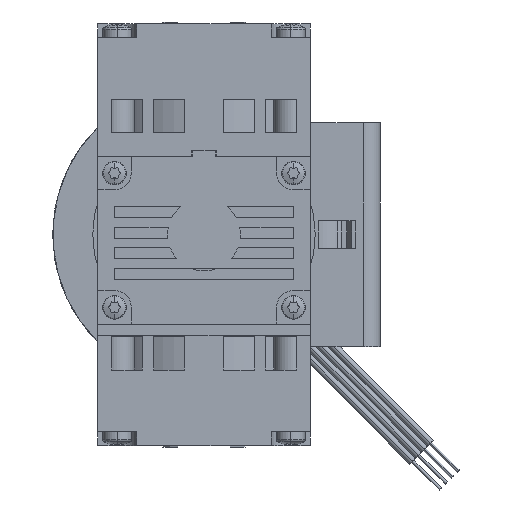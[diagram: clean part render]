
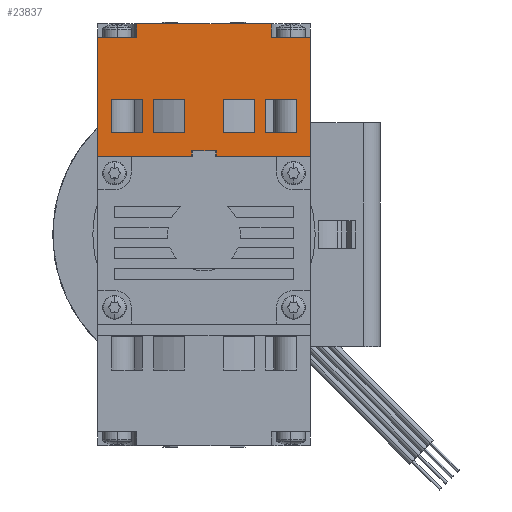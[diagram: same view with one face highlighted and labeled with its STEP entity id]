
A CAD part, left-side view. The second image highlights one B-rep face of the part: STEP entity #23837.
In plain terms, the highlighted planar face has unit normal (-1, 0, 0).
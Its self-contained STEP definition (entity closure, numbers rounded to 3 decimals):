
#1994=DIRECTION('',(0.,0.,1.));
#1995=VECTOR('',#1994,21.2);
#1996=CARTESIAN_POINT('',(-27.,-19.,14.));
#1997=LINE('',#1996,#1995);
#2264=DIRECTION('',(0.,-1.,0.));
#2265=VECTOR('',#2264,7.);
#2266=CARTESIAN_POINT('',(-27.,19.,35.2));
#2267=LINE('',#2266,#2265);
#2268=DIRECTION('',(0.,0.,-1.));
#2269=VECTOR('',#2268,2.5);
#2270=CARTESIAN_POINT('',(-27.,12.,37.7));
#2271=LINE('',#2270,#2269);
#2272=DIRECTION('',(0.,0.,-1.));
#2273=VECTOR('',#2272,2.5);
#2274=CARTESIAN_POINT('',(-27.,-12.,37.7));
#2275=LINE('',#2274,#2273);
#2276=DIRECTION('',(0.,-1.,0.));
#2277=VECTOR('',#2276,7.);
#2278=CARTESIAN_POINT('',(-27.,-12.,35.2));
#2279=LINE('',#2278,#2277);
#2280=DIRECTION('',(0.,1.,0.));
#2281=VECTOR('',#2280,16.8);
#2282=CARTESIAN_POINT('',(-27.,-19.,14.));
#2283=LINE('',#2282,#2281);
#2284=DIRECTION('',(0.,0.,1.));
#2285=VECTOR('',#2284,1.);
#2286=CARTESIAN_POINT('',(-27.,-2.2,14.));
#2287=LINE('',#2286,#2285);
#2288=DIRECTION('',(0.,1.,0.));
#2289=VECTOR('',#2288,4.4);
#2290=CARTESIAN_POINT('',(-27.,-2.2,15.));
#2291=LINE('',#2290,#2289);
#2292=DIRECTION('',(0.,0.,-1.));
#2293=VECTOR('',#2292,1.);
#2294=CARTESIAN_POINT('',(-27.,2.2,15.));
#2295=LINE('',#2294,#2293);
#2296=DIRECTION('',(0.,1.,0.));
#2297=VECTOR('',#2296,16.8);
#2298=CARTESIAN_POINT('',(-27.,2.2,14.));
#2299=LINE('',#2298,#2297);
#2300=DIRECTION('',(0.,1.,0.));
#2301=VECTOR('',#2300,5.5);
#2302=CARTESIAN_POINT('',(-27.,-16.5,24.2));
#2303=LINE('',#2302,#2301);
#2304=DIRECTION('',(0.,0.,1.));
#2305=VECTOR('',#2304,6.);
#2306=CARTESIAN_POINT('',(-27.,-11.,18.2));
#2307=LINE('',#2306,#2305);
#2308=DIRECTION('',(0.,1.,0.));
#2309=VECTOR('',#2308,5.5);
#2310=CARTESIAN_POINT('',(-27.,-16.5,18.2));
#2311=LINE('',#2310,#2309);
#2312=DIRECTION('',(0.,0.,1.));
#2313=VECTOR('',#2312,6.);
#2314=CARTESIAN_POINT('',(-27.,-16.5,18.2));
#2315=LINE('',#2314,#2313);
#2316=DIRECTION('',(0.,1.,0.));
#2317=VECTOR('',#2316,5.5);
#2318=CARTESIAN_POINT('',(-27.,-9.,24.2));
#2319=LINE('',#2318,#2317);
#2320=DIRECTION('',(0.,0.,1.));
#2321=VECTOR('',#2320,6.);
#2322=CARTESIAN_POINT('',(-27.,-3.5,18.2));
#2323=LINE('',#2322,#2321);
#2324=DIRECTION('',(0.,1.,0.));
#2325=VECTOR('',#2324,5.5);
#2326=CARTESIAN_POINT('',(-27.,-9.,18.2));
#2327=LINE('',#2326,#2325);
#2328=DIRECTION('',(0.,0.,1.));
#2329=VECTOR('',#2328,6.);
#2330=CARTESIAN_POINT('',(-27.,-9.,18.2));
#2331=LINE('',#2330,#2329);
#2332=DIRECTION('',(0.,1.,0.));
#2333=VECTOR('',#2332,5.5);
#2334=CARTESIAN_POINT('',(-27.,3.5,24.2));
#2335=LINE('',#2334,#2333);
#2336=DIRECTION('',(0.,0.,1.));
#2337=VECTOR('',#2336,6.);
#2338=CARTESIAN_POINT('',(-27.,9.,18.2));
#2339=LINE('',#2338,#2337);
#2340=DIRECTION('',(0.,1.,0.));
#2341=VECTOR('',#2340,5.5);
#2342=CARTESIAN_POINT('',(-27.,3.5,18.2));
#2343=LINE('',#2342,#2341);
#2344=DIRECTION('',(0.,0.,1.));
#2345=VECTOR('',#2344,6.);
#2346=CARTESIAN_POINT('',(-27.,3.5,18.2));
#2347=LINE('',#2346,#2345);
#2348=DIRECTION('',(0.,1.,0.));
#2349=VECTOR('',#2348,5.5);
#2350=CARTESIAN_POINT('',(-27.,11.,24.2));
#2351=LINE('',#2350,#2349);
#2352=DIRECTION('',(0.,0.,1.));
#2353=VECTOR('',#2352,6.);
#2354=CARTESIAN_POINT('',(-27.,16.5,18.2));
#2355=LINE('',#2354,#2353);
#2356=DIRECTION('',(0.,1.,0.));
#2357=VECTOR('',#2356,5.5);
#2358=CARTESIAN_POINT('',(-27.,11.,18.2));
#2359=LINE('',#2358,#2357);
#2360=DIRECTION('',(0.,0.,1.));
#2361=VECTOR('',#2360,6.);
#2362=CARTESIAN_POINT('',(-27.,11.,18.2));
#2363=LINE('',#2362,#2361);
#2384=DIRECTION('',(0.,0.,-1.));
#2385=VECTOR('',#2384,21.2);
#2386=CARTESIAN_POINT('',(-27.,19.,35.2));
#2387=LINE('',#2386,#2385);
#2704=DIRECTION('',(0.,-1.,0.));
#2705=VECTOR('',#2704,24.);
#2706=CARTESIAN_POINT('',(-27.,12.,37.7));
#2707=LINE('',#2706,#2705);
#17955=CARTESIAN_POINT('',(-27.,2.2,14.));
#17956=CARTESIAN_POINT('',(-27.,19.,14.));
#17957=VERTEX_POINT('',#17955);
#17958=VERTEX_POINT('',#17956);
#18015=CARTESIAN_POINT('',(-27.,-2.2,15.));
#18016=CARTESIAN_POINT('',(-27.,2.2,15.));
#18017=VERTEX_POINT('',#18015);
#18018=VERTEX_POINT('',#18016);
#18665=CARTESIAN_POINT('',(-27.,-16.5,24.2));
#18666=CARTESIAN_POINT('',(-27.,-11.,24.2));
#18667=VERTEX_POINT('',#18665);
#18668=VERTEX_POINT('',#18666);
#18669=CARTESIAN_POINT('',(-27.,-9.,24.2));
#18670=CARTESIAN_POINT('',(-27.,-3.5,24.2));
#18671=VERTEX_POINT('',#18669);
#18672=VERTEX_POINT('',#18670);
#18673=CARTESIAN_POINT('',(-27.,3.5,24.2));
#18674=CARTESIAN_POINT('',(-27.,9.,24.2));
#18675=VERTEX_POINT('',#18673);
#18676=VERTEX_POINT('',#18674);
#18677=CARTESIAN_POINT('',(-27.,11.,24.2));
#18678=CARTESIAN_POINT('',(-27.,16.5,24.2));
#18679=VERTEX_POINT('',#18677);
#18680=VERTEX_POINT('',#18678);
#18681=CARTESIAN_POINT('',(-27.,-16.5,18.2));
#18682=CARTESIAN_POINT('',(-27.,-11.,18.2));
#18683=VERTEX_POINT('',#18681);
#18684=VERTEX_POINT('',#18682);
#18685=CARTESIAN_POINT('',(-27.,-9.,18.2));
#18686=CARTESIAN_POINT('',(-27.,-3.5,18.2));
#18687=VERTEX_POINT('',#18685);
#18688=VERTEX_POINT('',#18686);
#18689=CARTESIAN_POINT('',(-27.,3.5,18.2));
#18690=CARTESIAN_POINT('',(-27.,9.,18.2));
#18691=VERTEX_POINT('',#18689);
#18692=VERTEX_POINT('',#18690);
#18693=CARTESIAN_POINT('',(-27.,11.,18.2));
#18694=CARTESIAN_POINT('',(-27.,16.5,18.2));
#18695=VERTEX_POINT('',#18693);
#18696=VERTEX_POINT('',#18694);
#18797=CARTESIAN_POINT('',(-27.,-19.,14.));
#18798=CARTESIAN_POINT('',(-27.,-2.2,14.));
#18799=VERTEX_POINT('',#18797);
#18800=VERTEX_POINT('',#18798);
#20065=CARTESIAN_POINT('',(-27.,12.,37.7));
#20067=VERTEX_POINT('',#20065);
#20079=CARTESIAN_POINT('',(-27.,-12.,37.7));
#20080=VERTEX_POINT('',#20079);
#20093=CARTESIAN_POINT('',(-27.,12.,35.2));
#20094=VERTEX_POINT('',#20093);
#20099=CARTESIAN_POINT('',(-27.,-12.,35.2));
#20100=VERTEX_POINT('',#20099);
#20105=CARTESIAN_POINT('',(-27.,19.,35.2));
#20106=VERTEX_POINT('',#20105);
#20107=CARTESIAN_POINT('',(-27.,-19.,35.2));
#20108=VERTEX_POINT('',#20107);
#23767=CARTESIAN_POINT('',(-27.,-19.,-18.));
#23768=DIRECTION('',(-1.,0.,0.));
#23769=DIRECTION('',(0.,0.,1.));
#23770=AXIS2_PLACEMENT_3D('',#23767,#23768,#23769);
#23771=PLANE('',#23770);
#23773=ORIENTED_EDGE('',*,*,#23772,.F.);
#23775=ORIENTED_EDGE('',*,*,#23774,.T.);
#23777=ORIENTED_EDGE('',*,*,#23776,.F.);
#23779=ORIENTED_EDGE('',*,*,#23778,.T.);
#23781=ORIENTED_EDGE('',*,*,#23780,.T.);
#23783=ORIENTED_EDGE('',*,*,#23782,.T.);
#23784=ORIENTED_EDGE('',*,*,#23601,.F.);
#23786=ORIENTED_EDGE('',*,*,#23785,.T.);
#23788=ORIENTED_EDGE('',*,*,#23787,.T.);
#23790=ORIENTED_EDGE('',*,*,#23789,.T.);
#23792=ORIENTED_EDGE('',*,*,#23791,.T.);
#23794=ORIENTED_EDGE('',*,*,#23793,.T.);
#23795=EDGE_LOOP('',(#23773,#23775,#23777,#23779,#23781,#23783,#23784,#23786,
#23788,#23790,#23792,#23794));
#23796=FACE_OUTER_BOUND('',#23795,.F.);
#23798=ORIENTED_EDGE('',*,*,#23797,.T.);
#23800=ORIENTED_EDGE('',*,*,#23799,.F.);
#23802=ORIENTED_EDGE('',*,*,#23801,.F.);
#23804=ORIENTED_EDGE('',*,*,#23803,.T.);
#23805=EDGE_LOOP('',(#23798,#23800,#23802,#23804));
#23806=FACE_BOUND('',#23805,.F.);
#23808=ORIENTED_EDGE('',*,*,#23807,.T.);
#23810=ORIENTED_EDGE('',*,*,#23809,.F.);
#23812=ORIENTED_EDGE('',*,*,#23811,.F.);
#23814=ORIENTED_EDGE('',*,*,#23813,.T.);
#23815=EDGE_LOOP('',(#23808,#23810,#23812,#23814));
#23816=FACE_BOUND('',#23815,.F.);
#23818=ORIENTED_EDGE('',*,*,#23817,.T.);
#23820=ORIENTED_EDGE('',*,*,#23819,.F.);
#23822=ORIENTED_EDGE('',*,*,#23821,.F.);
#23824=ORIENTED_EDGE('',*,*,#23823,.T.);
#23825=EDGE_LOOP('',(#23818,#23820,#23822,#23824));
#23826=FACE_BOUND('',#23825,.F.);
#23828=ORIENTED_EDGE('',*,*,#23827,.T.);
#23830=ORIENTED_EDGE('',*,*,#23829,.F.);
#23832=ORIENTED_EDGE('',*,*,#23831,.F.);
#23834=ORIENTED_EDGE('',*,*,#23833,.T.);
#23835=EDGE_LOOP('',(#23828,#23830,#23832,#23834));
#23836=FACE_BOUND('',#23835,.F.);
#23837=ADVANCED_FACE('',(#23796,#23806,#23816,#23826,#23836),#23771,.T.);
#23601=EDGE_CURVE('',#18799,#20108,#1997,.T.);
#23772=EDGE_CURVE('',#20106,#17958,#2387,.T.);
#23774=EDGE_CURVE('',#20106,#20094,#2267,.T.);
#23776=EDGE_CURVE('',#20067,#20094,#2271,.T.);
#23778=EDGE_CURVE('',#20067,#20080,#2707,.T.);
#23780=EDGE_CURVE('',#20080,#20100,#2275,.T.);
#23782=EDGE_CURVE('',#20100,#20108,#2279,.T.);
#23785=EDGE_CURVE('',#18799,#18800,#2283,.T.);
#23787=EDGE_CURVE('',#18800,#18017,#2287,.T.);
#23789=EDGE_CURVE('',#18017,#18018,#2291,.T.);
#23791=EDGE_CURVE('',#18018,#17957,#2295,.T.);
#23793=EDGE_CURVE('',#17957,#17958,#2299,.T.);
#23797=EDGE_CURVE('',#18667,#18668,#2303,.T.);
#23799=EDGE_CURVE('',#18684,#18668,#2307,.T.);
#23801=EDGE_CURVE('',#18683,#18684,#2311,.T.);
#23803=EDGE_CURVE('',#18683,#18667,#2315,.T.);
#23807=EDGE_CURVE('',#18671,#18672,#2319,.T.);
#23809=EDGE_CURVE('',#18688,#18672,#2323,.T.);
#23811=EDGE_CURVE('',#18687,#18688,#2327,.T.);
#23813=EDGE_CURVE('',#18687,#18671,#2331,.T.);
#23817=EDGE_CURVE('',#18675,#18676,#2335,.T.);
#23819=EDGE_CURVE('',#18692,#18676,#2339,.T.);
#23821=EDGE_CURVE('',#18691,#18692,#2343,.T.);
#23823=EDGE_CURVE('',#18691,#18675,#2347,.T.);
#23827=EDGE_CURVE('',#18679,#18680,#2351,.T.);
#23829=EDGE_CURVE('',#18696,#18680,#2355,.T.);
#23831=EDGE_CURVE('',#18695,#18696,#2359,.T.);
#23833=EDGE_CURVE('',#18695,#18679,#2363,.T.);
